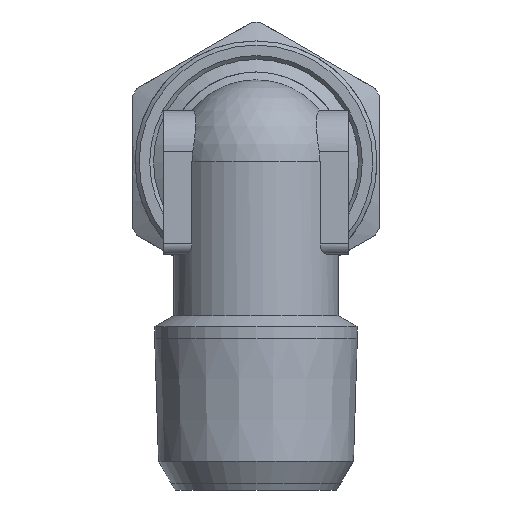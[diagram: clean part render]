
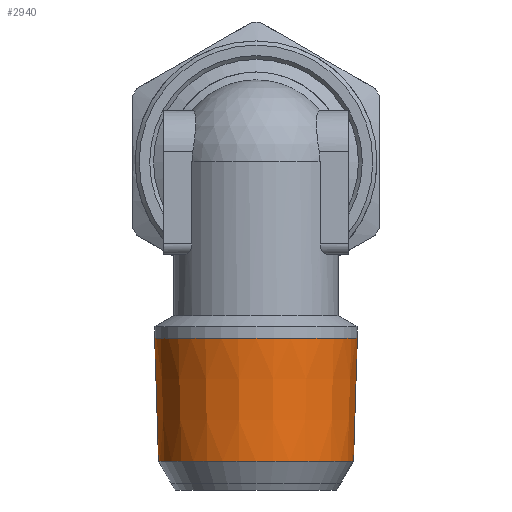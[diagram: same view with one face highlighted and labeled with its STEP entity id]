
A CAD part, left-side view. The second image highlights one B-rep face of the part: STEP entity #2940.
In plain terms, the highlighted conical face has half-angle 1.79 degrees and reference radius 4.942 mm.
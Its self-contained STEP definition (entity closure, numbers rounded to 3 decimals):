
#2940=ADVANCED_FACE('', (#2950,#2960), #2970, .T.);
#9710=AXIS2_PLACEMENT_3D('Ax2Pl3d', #9720, #9730, #9740);
#9750=AXIS2_PLACEMENT_3D('Ax2Pl3d', #9760, #9770, #9780);
#9790=AXIS2_PLACEMENT_3D('Ax2Pl3d', #9800, #9810, #9820);
#9720=CARTESIAN_POINT('HicPkt', (7.286,9.003,
12.381));
#9760=CARTESIAN_POINT('HicPkt', (7.286,9.003,
6.381));
#45830=CARTESIAN_POINT('', (7.286,4.248,6.381));
#9800=CARTESIAN_POINT('HicPkt', (7.286,9.003,
12.381));
#45840=CARTESIAN_POINT('', (7.286,13.945,12.381));
#46600=CIRCLE('Circle', #9750, 4.755);
#46610=CIRCLE('Circle', #9790, 4.942);
#2970=CONICAL_SURFACE('Kegel', #9710, 4.942, 
0.031);
#9730=DIRECTION('Axis', (0.,0.,1.));
#9740=DIRECTION('RefDirection', (1.,0.,-0.));
#9770=DIRECTION('Axis', (0.,0.,-1.));
#9780=DIRECTION('RefDirection', (-1.,-0.,0.));
#9810=DIRECTION('Axis', (0.,0.,1.));
#9820=DIRECTION('RefDirection', (1.,0.,-0.));
#55480=EDGE_CURVE('', #55490, #55490, #46600, .T.);
#55500=EDGE_CURVE('', #55510, #55510, #46610, .T.);
#59970=EDGE_LOOP('Edge_loop', (#59980));
#59990=EDGE_LOOP('Edge_loop', (#60000));
#2960=FACE_BOUND('', #59990, .T.);
#2950=FACE_OUTER_BOUND('Face_outer_bound', #59970, .T.);
#59980=ORIENTED_EDGE('', *, *, #55480, .F.);
#60000=ORIENTED_EDGE('', *, *, #55500, .F.);
#55490=VERTEX_POINT('', #45830);
#55510=VERTEX_POINT('', #45840);
